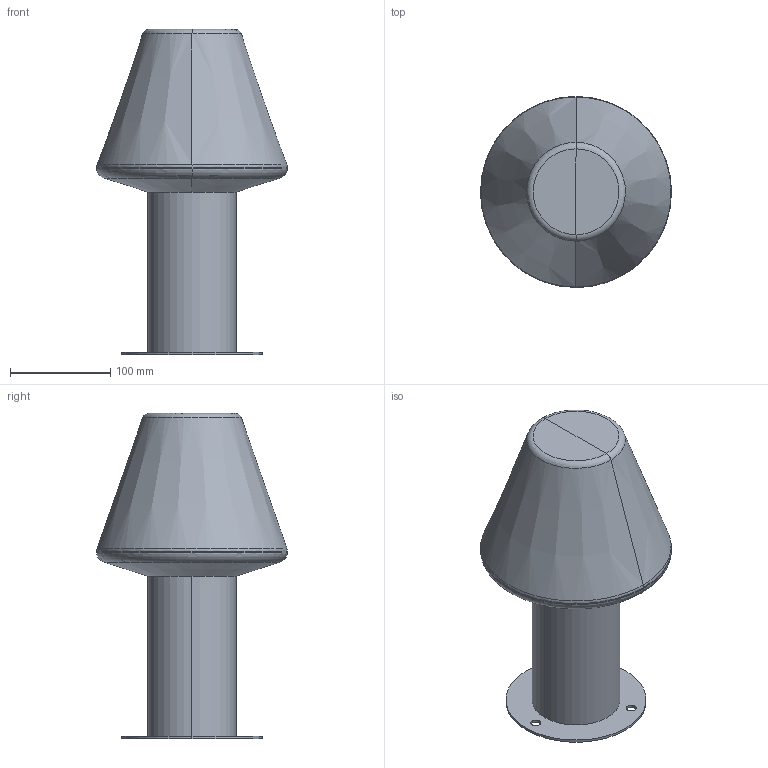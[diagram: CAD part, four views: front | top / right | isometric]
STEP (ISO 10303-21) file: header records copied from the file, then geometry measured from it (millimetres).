
FILE_DESCRIPTION(/* description */ (''),/* implementation_level */ '2;1');
FILE_NAME(/* name */ 'C:\Users\FrancoSartori\Documents\FARO\01_En Proceso\00_MOON BLUB´S MUFFIN MISTU\03_Publicación\74433S-02.stp',/* time_stamp */ '2021-06-09T13:41:17+02:00',/* author */ ('FrancoSartori'),/* organization */ (''),/* preprocessor_version */ 'ST-DEVELOPER v18.1',/* originating_system */ 'AutoCAD Mechanical',/* authorisation */ '');
FILE_SCHEMA (('AUTOMOTIVE_DESIGN { 1 0 10303 214 3 1 1 }'));
Length unit declared in the file: millimetre
Products named in the file (3): Product; 74433_ - LAMP-474775-Export; 74428_MISTU - B-477766-Export
Assembly tree (2 placements, depth 2):
  Product
    74433_ - LAMP-474775-Export
    74428_MISTU - B-477766-Export
Bounding box: 190.4 x 190.4 x 324.2 mm (x, y, z)
Volume: 3069541.9 mm3; surface area: 236497.4 mm2
Topology: 3 solids, 3 shells, 44 faces, 94 edges, 58 vertices
Faces by surface type: cylinder 22, plane 12, torus 6, cone 4
Entity records: 1656 total; most frequent: CARTESIAN_POINT 585, DIRECTION 228, ORIENTED_EDGE 188, AXIS2_PLACEMENT_3D 99, EDGE_CURVE 94, VERTEX_POINT 58, EDGE_LOOP 56, CIRCLE 50
